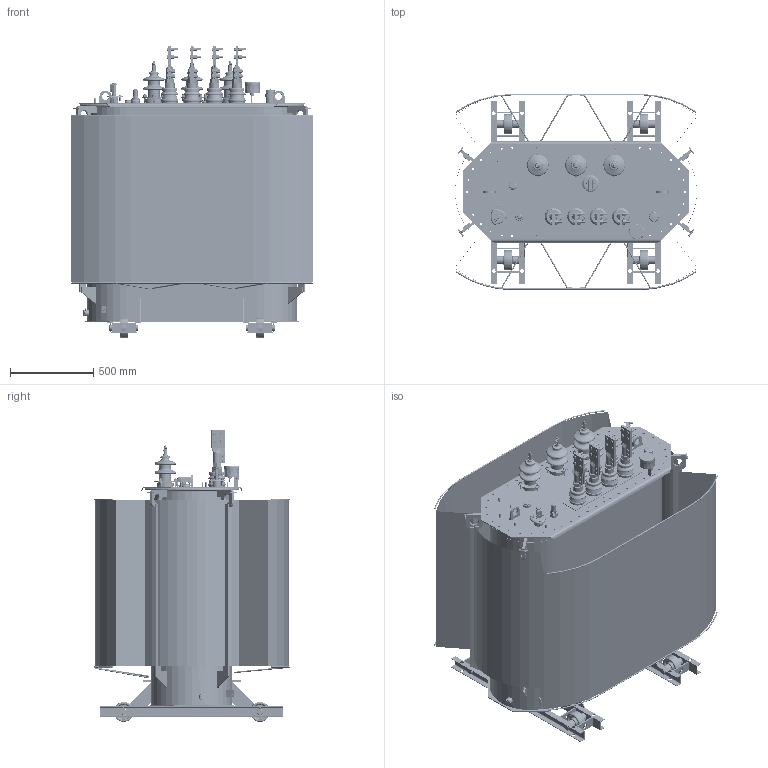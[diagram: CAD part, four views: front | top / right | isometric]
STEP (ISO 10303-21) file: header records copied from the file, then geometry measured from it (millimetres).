
FILE_DESCRIPTION(/* description */ (''),/* implementation_level */ '2;1');
FILE_NAME(/* name */ 'D:\SEARCHWORK\Готовые\\X2\0413043E0442043E0432044B0435\X0\ ТМГ\ТМГ21-1000\ТМГ21-1000-10.stp',/* time_stamp */ '2020-05-15T11:54:40+03:00',/* author */ ('55505'),/* organization */ (''),/* preprocessor_version */ 'ST-DEVELOPER v15.2',/* originating_system */ 'Autodesk Inventor 2014',/* authorisation */ '');
FILE_SCHEMA (('AUTOMOTIVE_DESIGN { 1 0 10303 214 3 1 1 }'));
Products named in the file (1): ТМГ21-1000-10
Bounding box: 1461.45 x 1180.48 x 1756 mm (x, y, z)
Volume: 35926511.3 mm3; surface area: 21324536.4 mm2
Topology: 59 solids, 110 shells, 9340 faces, 23091 edges, 14242 vertices
Faces by surface type: plane 3864, cylinder 2461, bspline 1383, torus 1021, cone 519, sphere 92
Full cylindrical faces by diameter (mm): 1.6 x3, 1.827 x2, 2 x2, 3.1 x2, 3.15 x3, 3.2 x2, 3.5 x1, 3.8 x4, 3.96 x3, 4 x8, 4.3 x2, 4.917 x2, 5 x11, 5.3 x5, 5.5 x5, 5.94 x5, 6 x22, 6.2 x5, 6.4 x6, 6.5 x1, 7 x12, 7.1 x2, 7.159 x1, 7.5 x1, 7.92 x3, 8 x25, 8.4 x3, 8.746 x15, 9 x11, 10 x31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
Entity records: 325610 total; most frequent: CARTESIAN_POINT 112613, ORIENTED_EDGE 42270, DIRECTION 39408, EDGE_CURVE 21111, AXIS2_PLACEMENT_3D 15210, VERTEX_POINT 13901, EDGE_LOOP 11935, STYLED_ITEM 9340
